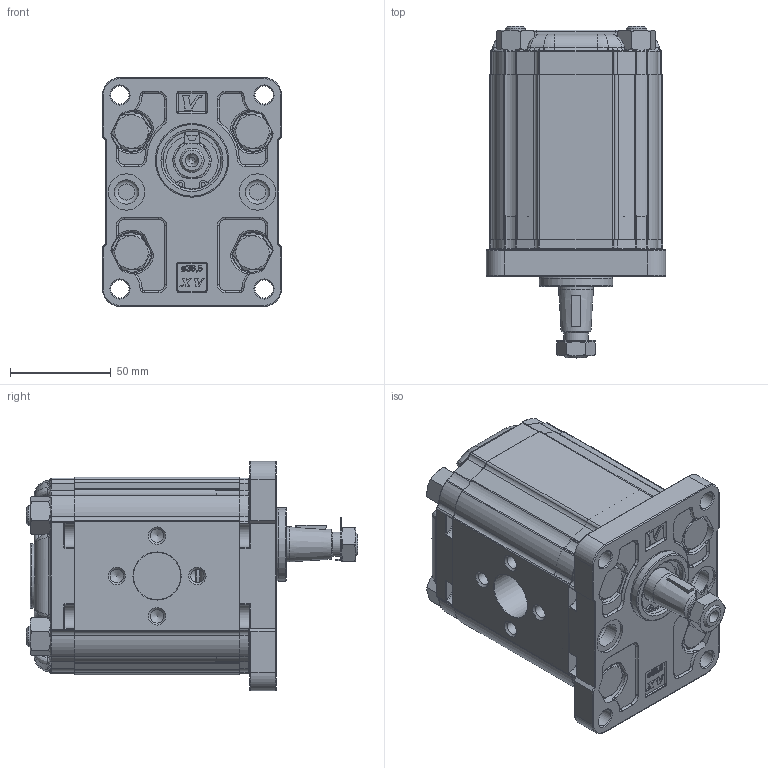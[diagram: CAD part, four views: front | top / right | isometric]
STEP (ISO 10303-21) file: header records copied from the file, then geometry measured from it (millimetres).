
FILE_DESCRIPTION( ( 'Unknown' ), '1' );
FILE_NAME( 'P:/montaggio_easy/output/STP/X2M5701EQPE.stp', 'Unknown', ( 'Unknown' ), ( 'Unknown' ), 'PSStep 14.0', 'Unknown', ' ' );
FILE_SCHEMA( ( 'AUTOMOTIVE_DESIGN { 1 0 10303 214 1 1 1 1 }' ) );
Length unit declared in the file: millimetre
Products named in the file (5): Assem1; X2M01; 2E; X2QPH82; XM201-E
Bounding box: 89 x 164.65 x 113.7 mm (x, y, z)
Surface area: 248613.6 mm2
Topology: 8 solids, 10 shells, 2806 faces, 7148 edges, 4504 vertices
Faces by surface type: plane 1106, cylinder 796, torus 340, cone 218, extrusion 204, bspline 134, sphere 8
Full cylindrical faces by diameter (mm): 2 x4, 6.647 x16, 9 x8, 10 x8, 11.445 x2, 11.5 x8, 12 x8, 12.5 x2, 16 x8, 17.42 x2, 18 x6, 20 x2, 20.595 x2, 23.332 x2, 23.5 x2, 25.834 x2, 28.5 x2, 28.56 x2, 28.57 x2, 28.8 x2, 30.5 x2, 36.5 x2
Entity records: 59969 total; most frequent: CARTESIAN_POINT 15794, ORIENTED_EDGE 6814, DIRECTION 6697, EDGE_CURVE 3407, AXIS2_PLACEMENT_3D 2451, VERTEX_POINT 2207, VECTOR 1795, LINE 1693
